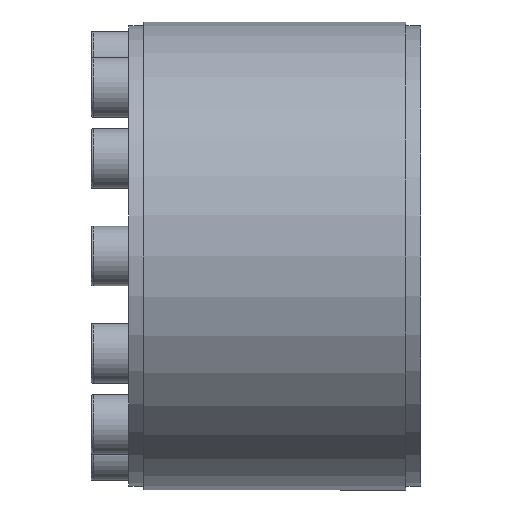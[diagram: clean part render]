
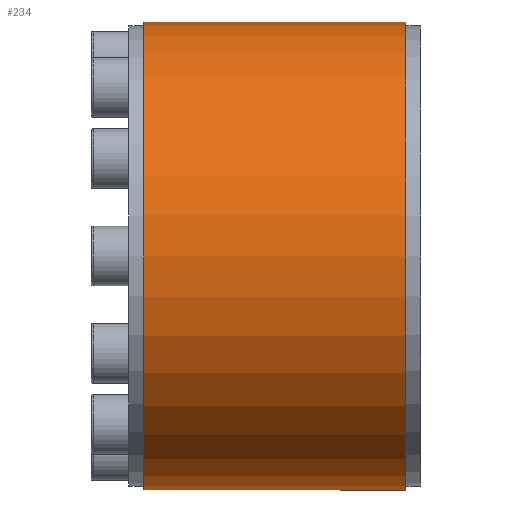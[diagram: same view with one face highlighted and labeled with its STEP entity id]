
A CAD part, left-side view. The second image highlights one B-rep face of the part: STEP entity #234.
In plain terms, the highlighted cylindrical face has radius 62.5 mm (diameter 125 mm), a partial arc.
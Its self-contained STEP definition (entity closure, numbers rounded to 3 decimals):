
#29 = CARTESIAN_POINT ( 'NONE',  ( 0., 0., -62.5 ) ) ;
#77 = DIRECTION ( 'NONE',  ( 0., 0., -1. ) ) ;
#118 = CARTESIAN_POINT ( 'NONE',  ( 0., 35., 0. ) ) ;
#234 = ADVANCED_FACE ( 'NONE', ( #2501 ), #1793, .T. ) ;
#290 = CARTESIAN_POINT ( 'NONE',  ( 0., -35., 62.5 ) ) ;
#356 = VERTEX_POINT ( 'NONE', #3828 ) ;
#487 = CARTESIAN_POINT ( 'NONE',  ( 0., 35., -62.5 ) ) ;
#772 = AXIS2_PLACEMENT_3D ( 'NONE', #118, #2495, #77 ) ;
#900 = ORIENTED_EDGE ( 'NONE', *, *, #3967, .F. ) ;
#1045 = CARTESIAN_POINT ( 'NONE',  ( 0., 0., 62.5 ) ) ;
#1054 = EDGE_CURVE ( 'NONE', #356, #1213, #3298, .T. ) ;
#1166 = LINE ( 'NONE', #1045, #4311 ) ;
#1213 = VERTEX_POINT ( 'NONE', #487 ) ;
#1310 = CIRCLE ( 'NONE', #1690, 62.5 ) ;
#1326 = EDGE_CURVE ( 'NONE', #1213, #3333, #3723, .T. ) ;
#1530 = ORIENTED_EDGE ( 'NONE', *, *, #1326, .T. ) ;
#1639 = DIRECTION ( 'NONE',  ( 0., -1., 0. ) ) ;
#1690 = AXIS2_PLACEMENT_3D ( 'NONE', #4025, #1639, #1991 ) ;
#1739 = CARTESIAN_POINT ( 'NONE',  ( 0., 0., 0. ) ) ;
#1786 = DIRECTION ( 'NONE',  ( 0., -1., 0. ) ) ;
#1793 = CYLINDRICAL_SURFACE ( 'NONE', #2292, 62.5 ) ;
#1953 = ORIENTED_EDGE ( 'NONE', *, *, #1054, .T. ) ;
#1991 = DIRECTION ( 'NONE',  ( 0., 0., -1. ) ) ;
#2292 = AXIS2_PLACEMENT_3D ( 'NONE', #1739, #3463, #2431 ) ;
#2324 = CARTESIAN_POINT ( 'NONE',  ( 0., -35., -62.5 ) ) ;
#2347 = VERTEX_POINT ( 'NONE', #290 ) ;
#2431 = DIRECTION ( 'NONE',  ( 0., 0., -1. ) ) ;
#2495 = DIRECTION ( 'NONE',  ( 0., -1., 0. ) ) ;
#2501 = FACE_OUTER_BOUND ( 'NONE', #3197, .T. ) ;
#2711 = DIRECTION ( 'NONE',  ( 0., -1., 0. ) ) ;
#2806 = EDGE_CURVE ( 'NONE', #356, #2347, #1166, .T. ) ;
#3197 = EDGE_LOOP ( 'NONE', ( #3953, #1953, #1530, #900 ) ) ;
#3298 = CIRCLE ( 'NONE', #772, 62.5 ) ;
#3333 = VERTEX_POINT ( 'NONE', #2324 ) ;
#3463 = DIRECTION ( 'NONE',  ( 0., -1., 0. ) ) ;
#3723 = LINE ( 'NONE', #29, #3988 ) ;
#3828 = CARTESIAN_POINT ( 'NONE',  ( 0., 35., 62.5 ) ) ;
#3953 = ORIENTED_EDGE ( 'NONE', *, *, #2806, .F. ) ;
#3967 = EDGE_CURVE ( 'NONE', #2347, #3333, #1310, .T. ) ;
#3988 = VECTOR ( 'NONE', #1786, 1000. ) ;
#4025 = CARTESIAN_POINT ( 'NONE',  ( 0., -35., 0. ) ) ;
#4311 = VECTOR ( 'NONE', #2711, 1000. ) ;
